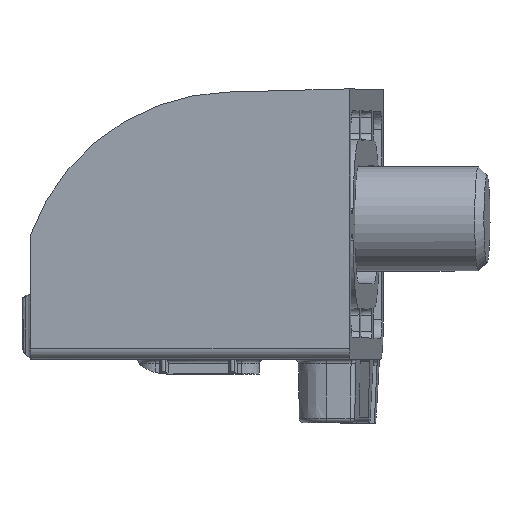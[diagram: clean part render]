
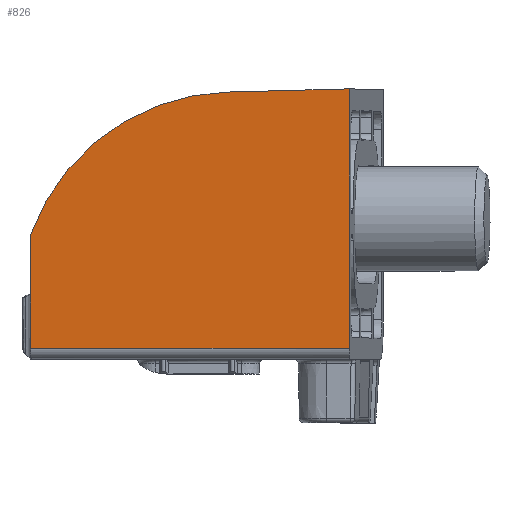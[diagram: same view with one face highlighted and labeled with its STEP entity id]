
A CAD part, top view. The second image highlights one B-rep face of the part: STEP entity #826.
In plain terms, the highlighted planar face has unit normal (-0.096, 0, 0.995).
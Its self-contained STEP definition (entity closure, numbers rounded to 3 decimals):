
#589=PLANE('',#5636);
#826=ADVANCED_FACE('',(#1243),#589,.F.);
#1243=FACE_OUTER_BOUND('',#1545,.T.);
#1545=EDGE_LOOP('',(#3254,#3255,#3256,#3257,#3258));
#1941=LINE('',#9149,#2291);
#1974=LINE('',#9447,#2324);
#1976=LINE('',#9450,#2326);
#1977=LINE('',#9452,#2327);
#2291=VECTOR('',#6730,1.);
#2324=VECTOR('',#6847,1.);
#2326=VECTOR('',#6851,1.);
#2327=VECTOR('',#6852,1.);
#3254=ORIENTED_EDGE('',*,*,#4929,.F.);
#3255=ORIENTED_EDGE('',*,*,#4930,.F.);
#3256=ORIENTED_EDGE('',*,*,#4924,.F.);
#3257=ORIENTED_EDGE('',*,*,#4927,.T.);
#3258=ORIENTED_EDGE('',*,*,#4845,.F.);
#4225=VERTEX_POINT('',#9148);
#4226=VERTEX_POINT('',#9150);
#4277=VERTEX_POINT('',#9430);
#4278=VERTEX_POINT('',#9432);
#4279=VERTEX_POINT('',#9451);
#4845=EDGE_CURVE('',#4225,#4226,#1941,.T.);
#4924=EDGE_CURVE('',#4277,#4278,#5228,.T.);
#4927=EDGE_CURVE('',#4277,#4226,#1974,.T.);
#4929=EDGE_CURVE('',#4279,#4225,#1976,.T.);
#4930=EDGE_CURVE('',#4278,#4279,#1977,.T.);
#5228=ELLIPSE('',#5633,10.003,10.);
#5633=AXIS2_PLACEMENT_3D('',#9431,#6842,#6843);
#5636=AXIS2_PLACEMENT_3D('',#9453,#6853,#6854);
#6730=DIRECTION('',(-0.995,0.,-0.096));
#6842=DIRECTION('',(0.096,0.,-0.995));
#6843=DIRECTION('',(-0.995,0.,-0.096));
#6847=DIRECTION('',(0.,-1.,0.));
#6851=DIRECTION('',(0.,-1.,0.));
#6852=DIRECTION('',(0.995,0.026,0.096));
#6853=DIRECTION('',(0.096,0.,-0.995));
#6854=DIRECTION('',(-0.995,0.,-0.096));
#9148=CARTESIAN_POINT('',(261.936,219.884,69.027));
#9149=CARTESIAN_POINT('',(247.197,219.884,67.608));
#9150=CARTESIAN_POINT('',(247.197,219.884,67.608));
#9430=CARTESIAN_POINT('',(247.197,225.151,67.608));
#9431=CARTESIAN_POINT('',(256.557,221.739,68.509));
#9432=CARTESIAN_POINT('',(256.296,231.735,68.484));
#9447=CARTESIAN_POINT('',(247.197,225.634,67.608));
#9450=CARTESIAN_POINT('',(261.936,225.634,69.027));
#9451=CARTESIAN_POINT('',(261.936,231.884,69.027));
#9452=CARTESIAN_POINT('',(261.773,231.88,69.012));
#9453=CARTESIAN_POINT('',(261.936,225.634,69.027));
